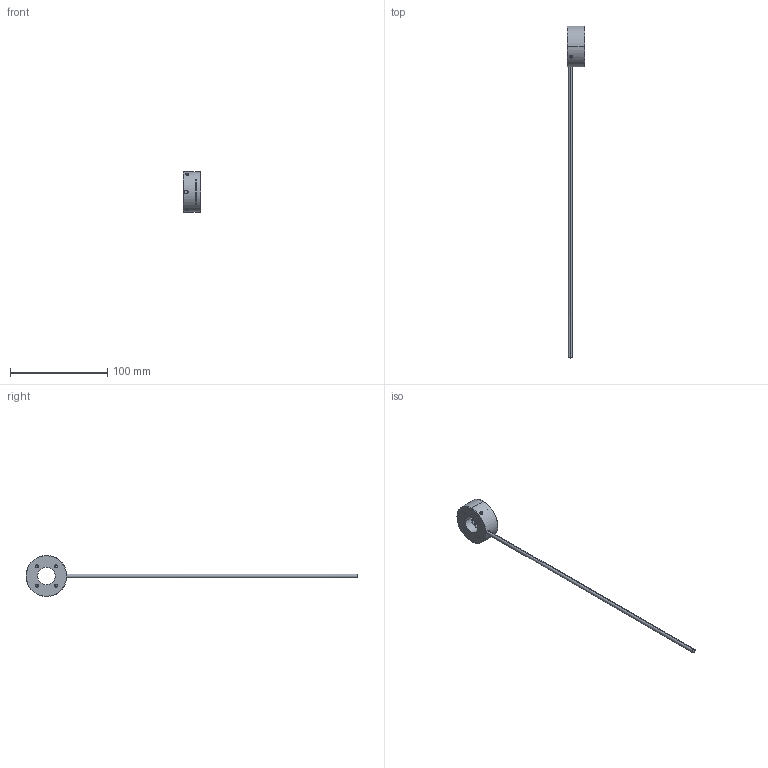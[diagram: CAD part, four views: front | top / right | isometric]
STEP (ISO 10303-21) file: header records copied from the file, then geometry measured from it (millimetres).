
FILE_DESCRIPTION (( 'STEP AP214' ), '1' );
FILE_NAME ('CV-R-42X18-65#20140616.STEP', '2014-06-16T02:30:04', ( '' ), ( '' ), 'SwSTEP 2.0', 'SolidWorks 2011', '' );
FILE_SCHEMA (( 'AUTOMOTIVE_DESIGN' ));
Length unit declared in the file: millimetre
Products named in the file (1): CV-R-42X18-65#20140616
Bounding box: 18 x 340.9 x 42 mm (x, y, z)
Volume: 19257.1 mm3; surface area: 12251 mm2
Topology: 1 solids, 1 shells, 572 faces, 1503 edges, 942 vertices
Faces by surface type: plane 260, cylinder 206, sphere 80, cone 26
Entity records: 17799 total; most frequent: CARTESIAN_POINT 4325, DIRECTION 2977, ORIENTED_EDGE 2686, EDGE_CURVE 1343, AXIS2_PLACEMENT_3D 1222, VERTEX_POINT 862, EDGE_LOOP 663, CIRCLE 649
